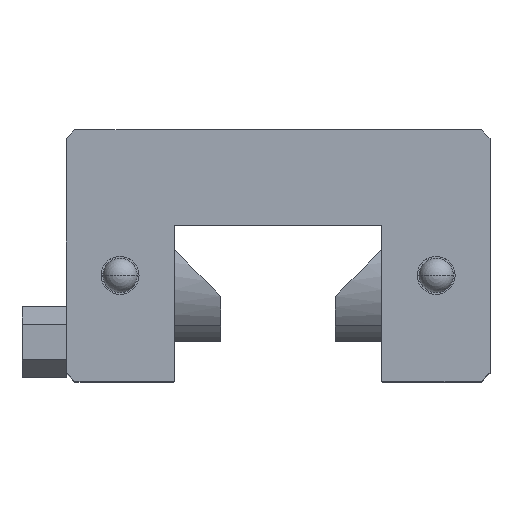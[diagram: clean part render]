
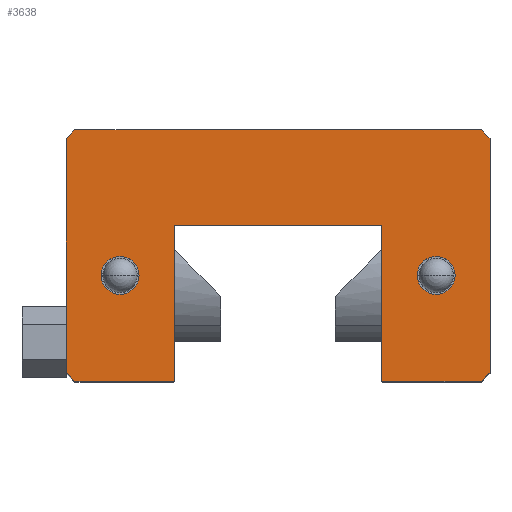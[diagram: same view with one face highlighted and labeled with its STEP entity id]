
A CAD part, top view. The second image highlights one B-rep face of the part: STEP entity #3638.
In plain terms, the highlighted planar face has unit normal (0, 0, 1).
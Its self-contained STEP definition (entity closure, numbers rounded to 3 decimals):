
#1524 = EDGE_CURVE( '', #1684, #1900, #4401, .T. );
#1568 = EDGE_CURVE( '', #3536, #2632, #4449, .T. );
#1578 = VERTEX_POINT( '', #4459 );
#1664 = EDGE_CURVE( '', #1822, #3176, #4557, .T. );
#1684 = VERTEX_POINT( '', #4581 );
#1710 = VERTEX_POINT( '', #4610 );
#1722 = EDGE_CURVE( '', #2030, #3742, #4625, .T. );
#1822 = VERTEX_POINT( '', #4736 );
#1900 = VERTEX_POINT( '', #4823 );
#2014 = EDGE_CURVE( '', #2478, #4252, #4950, .T. );
#2030 = VERTEX_POINT( '', #4967 );
#2046 = EDGE_CURVE( '', #3454, #3478, #4984, .T. );
#2130 = VERTEX_POINT( '', #5081 );
#2322 = EDGE_CURVE( '', #3308, #2478, #5294, .T. );
#2346 = EDGE_CURVE( '', #1900, #1822, #5322, .T. );
#2392 = VERTEX_POINT( '', #5379 );
#2434 = EDGE_CURVE( '', #1578, #2392, #5427, .T. );
#2478 = VERTEX_POINT( '', #5477 );
#2632 = VERTEX_POINT( '', #5652 );
#2782 = EDGE_CURVE( '', #3176, #3558, #5819, .T. );
#3074 = EDGE_CURVE( '', #1710, #1684, #6153, .T. );
#3176 = VERTEX_POINT( '', #6260 );
#3194 = EDGE_CURVE( '', #3558, #3454, #6279, .T. );
#3308 = VERTEX_POINT( '', #6409 );
#3446 = EDGE_CURVE( '', #4252, #2130, #6561, .T. );
#3454 = VERTEX_POINT( '', #6571 );
#3478 = VERTEX_POINT( '', #6597 );
#3536 = VERTEX_POINT( '', #6664 );
#3558 = VERTEX_POINT( '', #6689 );
#3624 = EDGE_CURVE( '', #2632, #3308, #6761, .T. );
#3638 = ADVANCED_FACE( '', ( #6776, #6777, #6778 ), #6779, .T. );
#3724 = EDGE_CURVE( '', #3478, #3536, #6873, .T. );
#3742 = VERTEX_POINT( '', #6891 );
#3880 = EDGE_CURVE( '', #2130, #1710, #7050, .T. );
#4088 = EDGE_CURVE( '', #3742, #2030, #7280, .T. );
#4164 = EDGE_CURVE( '', #2392, #1578, #7364, .T. );
#4252 = VERTEX_POINT( '', #7464 );
#4401 = LINE( '', #7632, #7633 );
#4449 = LINE( '', #7698, #7699 );
#4459 = CARTESIAN_POINT( '', ( -17.9, 21.65, 0. ) );
#4557 = LINE( '', #7851, #7852 );
#4581 = CARTESIAN_POINT( '', ( -23., 36., 0. ) );
#4610 = CARTESIAN_POINT( '', ( 23., 36., 0. ) );
#4625 = CIRCLE( '', #7938, 2.15 );
#4736 = CARTESIAN_POINT( '', ( -24., 8.5, 0. ) );
#4823 = CARTESIAN_POINT( '', ( -24., 35., 0. ) );
#4950 = LINE( '', #8371, #8372 );
#4967 = CARTESIAN_POINT( '', ( 17.9, 17.35, 0. ) );
#4984 = LINE( '', #8413, #8414 );
#5081 = CARTESIAN_POINT( '', ( 24., 35., 0. ) );
#5294 = LINE( '', #8828, #8829 );
#5322 = LINE( '', #8866, #8867 );
#5379 = CARTESIAN_POINT( '', ( -17.9, 17.35, 0. ) );
#5427 = CIRCLE( '', #9012, 2.15 );
#5477 = CARTESIAN_POINT( '', ( 23., 7.5, 0. ) );
#5652 = CARTESIAN_POINT( '', ( 11.75, 7.6, 0. ) );
#5819 = LINE( '', #9552, #9553 );
#6153 = LINE( '', #9993, #9994 );
#6260 = CARTESIAN_POINT( '', ( -23., 7.5, 0. ) );
#6279 = LINE( '', #10173, #10174 );
#6409 = CARTESIAN_POINT( '', ( 11.85, 7.5, 0. ) );
#6561 = LINE( '', #10574, #10575 );
#6571 = CARTESIAN_POINT( '', ( -11.75, 7.6, 0. ) );
#6597 = CARTESIAN_POINT( '', ( -11.75, 25.2, 0. ) );
#6664 = CARTESIAN_POINT( '', ( 11.75, 25.2, 0. ) );
#6689 = CARTESIAN_POINT( '', ( -11.85, 7.5, 0. ) );
#6761 = LINE( '', #10842, #10843 );
#6776 = FACE_BOUND( '', #10865, .T. );
#6777 = FACE_BOUND( '', #10866, .T. );
#6778 = FACE_OUTER_BOUND( '', #10867, .T. );
#6779 = PLANE( '', #10868 );
#6873 = LINE( '', #10992, #10993 );
#6891 = CARTESIAN_POINT( '', ( 17.9, 21.65, 0. ) );
#7050 = LINE( '', #11234, #11235 );
#7280 = CIRCLE( '', #11556, 2.15 );
#7364 = CIRCLE( '', #11680, 2.15 );
#7464 = CARTESIAN_POINT( '', ( 24., 8.5, 0. ) );
#7632 = CARTESIAN_POINT( '', ( -23., 36., 0. ) );
#7633 = VECTOR( '', #11950, 1. );
#7698 = CARTESIAN_POINT( '', ( 11.75, 25.2, 0. ) );
#7699 = VECTOR( '', #11996, 1. );
#7851 = CARTESIAN_POINT( '', ( -24., 8.5, 0. ) );
#7852 = VECTOR( '', #12120, 1. );
#7938 = AXIS2_PLACEMENT_3D( '', #12215, #12216, #12217 );
#8371 = CARTESIAN_POINT( '', ( 23., 7.5, 0. ) );
#8372 = VECTOR( '', #12562, 1. );
#8413 = CARTESIAN_POINT( '', ( -11.75, 7.6, 0. ) );
#8414 = VECTOR( '', #12582, 1. );
#8828 = CARTESIAN_POINT( '', ( 11.85, 7.5, 0. ) );
#8829 = VECTOR( '', #12918, 1. );
#8866 = CARTESIAN_POINT( '', ( -24., 35., 0. ) );
#8867 = VECTOR( '', #12965, 1. );
#9012 = AXIS2_PLACEMENT_3D( '', #13084, #13085, #13086 );
#9552 = CARTESIAN_POINT( '', ( -23., 7.5, 0. ) );
#9553 = VECTOR( '', #13564, 1. );
#9993 = CARTESIAN_POINT( '', ( 23., 36., 0. ) );
#9994 = VECTOR( '', #13981, 1. );
#10173 = CARTESIAN_POINT( '', ( -11.85, 7.5, 0. ) );
#10174 = VECTOR( '', #14087, 1. );
#10574 = CARTESIAN_POINT( '', ( 24., 8.5, 0. ) );
#10575 = VECTOR( '', #14428, 1. );
#10842 = CARTESIAN_POINT( '', ( 11.75, 7.6, 0. ) );
#10843 = VECTOR( '', #14649, 1. );
#10865 = EDGE_LOOP( '', ( #14665, #14666 ) );
#10866 = EDGE_LOOP( '', ( #14667, #14668 ) );
#10867 = EDGE_LOOP( '', ( #14669, #14670, #14671, #14672, #14673, #14674, #14675, #14676, #14677, #14678, #14679, #14680, #14681, #14682 ) );
#10868 = AXIS2_PLACEMENT_3D( '', #14683, #14684, #14685 );
#10992 = CARTESIAN_POINT( '', ( -11.75, 25.2, 0. ) );
#10993 = VECTOR( '', #14783, 1. );
#11234 = CARTESIAN_POINT( '', ( 24., 35., 0. ) );
#11235 = VECTOR( '', #14974, 1. );
#11556 = AXIS2_PLACEMENT_3D( '', #15219, #15220, #15221 );
#11680 = AXIS2_PLACEMENT_3D( '', #15323, #15324, #15325 );
#11950 = DIRECTION( '', ( -0.707, -0.707, 0. ) );
#11996 = DIRECTION( '', ( 0., -1., 0. ) );
#12120 = DIRECTION( '', ( 0.707, -0.707, 0. ) );
#12215 = CARTESIAN_POINT( '', ( 17.9, 19.5, 0. ) );
#12216 = DIRECTION( '', ( 0., 0., -1. ) );
#12217 = DIRECTION( '', ( 0., -1., 0. ) );
#12562 = DIRECTION( '', ( 0.707, 0.707, 0. ) );
#12582 = DIRECTION( '', ( 0., 1., 0. ) );
#12918 = DIRECTION( '', ( 1., 0., 0. ) );
#12965 = DIRECTION( '', ( 0., -1., 0. ) );
#13084 = CARTESIAN_POINT( '', ( -17.9, 19.5, 0. ) );
#13085 = DIRECTION( '', ( 0., 0., -1. ) );
#13086 = DIRECTION( '', ( 0., -1., 0. ) );
#13564 = DIRECTION( '', ( 1., 0., 0. ) );
#13981 = DIRECTION( '', ( -1., 0., 0. ) );
#14087 = DIRECTION( '', ( 0.707, 0.707, 0. ) );
#14428 = DIRECTION( '', ( 0., 1., 0. ) );
#14649 = DIRECTION( '', ( 0.707, -0.707, 0. ) );
#14665 = ORIENTED_EDGE( '', *, *, #4088, .T. );
#14666 = ORIENTED_EDGE( '', *, *, #1722, .T. );
#14667 = ORIENTED_EDGE( '', *, *, #2434, .T. );
#14668 = ORIENTED_EDGE( '', *, *, #4164, .T. );
#14669 = ORIENTED_EDGE( '', *, *, #2346, .T. );
#14670 = ORIENTED_EDGE( '', *, *, #1664, .T. );
#14671 = ORIENTED_EDGE( '', *, *, #2782, .T. );
#14672 = ORIENTED_EDGE( '', *, *, #3194, .T. );
#14673 = ORIENTED_EDGE( '', *, *, #2046, .T. );
#14674 = ORIENTED_EDGE( '', *, *, #3724, .T. );
#14675 = ORIENTED_EDGE( '', *, *, #1568, .T. );
#14676 = ORIENTED_EDGE( '', *, *, #3624, .T. );
#14677 = ORIENTED_EDGE( '', *, *, #2322, .T. );
#14678 = ORIENTED_EDGE( '', *, *, #2014, .T. );
#14679 = ORIENTED_EDGE( '', *, *, #3446, .T. );
#14680 = ORIENTED_EDGE( '', *, *, #3880, .T. );
#14681 = ORIENTED_EDGE( '', *, *, #3074, .T. );
#14682 = ORIENTED_EDGE( '', *, *, #1524, .T. );
#14683 = CARTESIAN_POINT( '', ( 0., 0., 0. ) );
#14684 = DIRECTION( '', ( 0., 0., 1. ) );
#14685 = DIRECTION( '', ( 1., 0., 0. ) );
#14783 = DIRECTION( '', ( 1., 0., 0. ) );
#14974 = DIRECTION( '', ( -0.707, 0.707, 0. ) );
#15219 = CARTESIAN_POINT( '', ( 17.9, 19.5, 0. ) );
#15220 = DIRECTION( '', ( 0., 0., -1. ) );
#15221 = DIRECTION( '', ( 0., -1., 0. ) );
#15323 = CARTESIAN_POINT( '', ( -17.9, 19.5, 0. ) );
#15324 = DIRECTION( '', ( 0., 0., -1. ) );
#15325 = DIRECTION( '', ( 0., -1., 0. ) );
